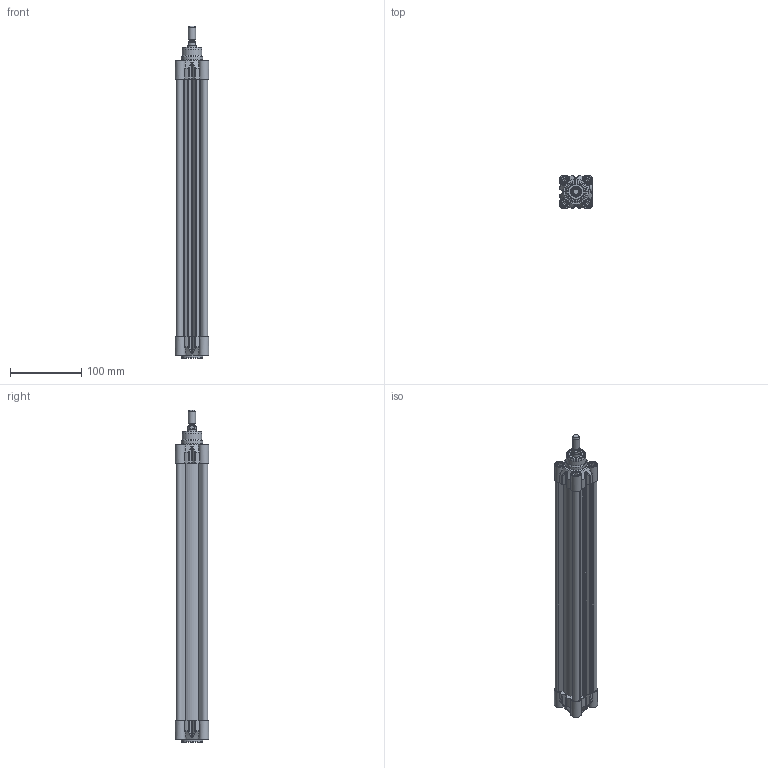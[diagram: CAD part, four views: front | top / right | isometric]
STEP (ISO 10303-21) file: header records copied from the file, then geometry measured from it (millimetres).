
FILE_DESCRIPTION(/* description */ ('CILINDRO D.E. MAGNETICO AMMORTIZZATO ISO 15552'),/* implementation_level */ '2;1');
FILE_NAME(/* name */ 'T:\Archivio Inventor\- 00 NUOVI STP PER SITO CON STELO CHE SI MUOVE\SERIE H - U\SERIE HDM\HDM032-TUBO NUOVO\HDM032.320.GS.M.stp',/* time_stamp */ '2018-07-25T14:28:24+02:00',/* author */ ('carlo.corazza'),/* organization */ (''),/* preprocessor_version */ 'ST-DEVELOPER v16.5',/* originating_system */ 'Autodesk Inventor 2017',/* authorisation */ '');
FILE_SCHEMA (('AUTOMOTIVE_DESIGN { 1 0 10303 214 3 1 1 }'));
Length unit declared in the file: millimetre
Products named in the file (5): HDM032.320.GS.M; TP; STELO-320; TA; CORPO-320
Assembly tree (4 placements, depth 2):
  HDM032.320.GS.M
    TP
    STELO-320
    TA
    CORPO-320
Bounding box: 47 x 47 x 466 mm (x, y, z)
Volume: 321180.8 mm3; surface area: 228496.7 mm2
Topology: 4 solids, 18 shells, 969 faces, 2356 edges, 1494 vertices
Faces by surface type: plane 330, cylinder 260, bspline 190, cone 86, torus 83, sphere 20
Full cylindrical faces by diameter (mm): 2 x2, 2.1 x2, 4 x2, 4.5 x2, 4.917 x8, 6 x8, 6.2 x8, 6.3 x4, 7 x2, 7.8 x4, 7.9 x3, 8 x4, 8.566 x2, 10 x9, 10.3 x8, 11.6 x1, 12 x1, 12.8 x1, 12.847 x1, 16 x1, 17 x2, 22 x3, 28 x1, 30 x2, 32 x1
Entity records: 31186 total; most frequent: CARTESIAN_POINT 9171, ORIENTED_EDGE 4162, DIRECTION 4048, EDGE_CURVE 2081, AXIS2_PLACEMENT_3D 1569, VERTEX_POINT 1436, EDGE_LOOP 1302, FACE_OUTER_BOUND 969
